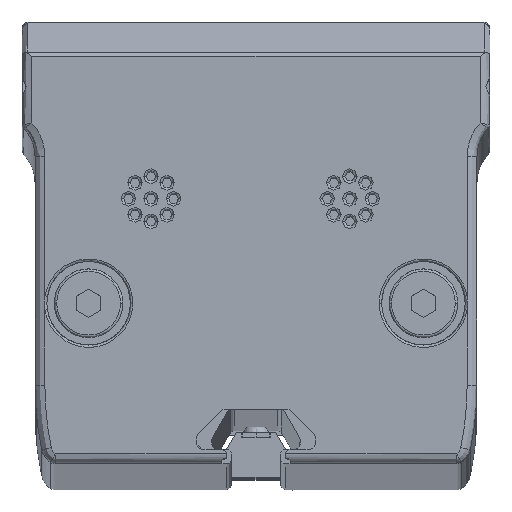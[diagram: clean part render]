
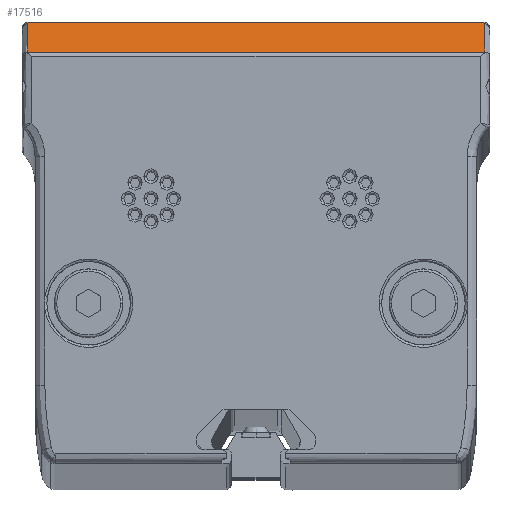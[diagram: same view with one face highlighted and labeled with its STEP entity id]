
A CAD part, top view. The second image highlights one B-rep face of the part: STEP entity #17516.
In plain terms, the highlighted planar face has unit normal (0, 0.858, 0.514).
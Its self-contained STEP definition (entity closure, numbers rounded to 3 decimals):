
#355 = VERTEX_POINT ( 'NONE', #18386 ) ;
#1018 = EDGE_CURVE ( 'NONE', #355, #14718, #29781, .T. ) ;
#1491 = DIRECTION ( 'NONE',  ( 0., 0.514, -0.857 ) ) ;
#2038 = CARTESIAN_POINT ( 'NONE',  ( -23.215, 22.429, 1504.914 ) ) ;
#2361 = CARTESIAN_POINT ( 'NONE',  ( 23.215, 22.429, 1504.914 ) ) ;
#3003 = EDGE_CURVE ( 'NONE', #14055, #355, #25816, .T. ) ;
#3198 = CARTESIAN_POINT ( 'NONE',  ( -23.315, 22.329, 1505.08 ) ) ;
#3528 = ORIENTED_EDGE ( 'NONE', *, *, #8092, .T. ) ;
#4273 = CARTESIAN_POINT ( 'NONE',  ( -23.315, 19.287, 1510.15 ) ) ;
#4395 = EDGE_CURVE ( 'NONE', #26725, #14055, #6176, .T. ) ;
#4778 = CARTESIAN_POINT ( 'NONE',  ( 23.215, 22.429, 1504.914 ) ) ;
#6176 =( BOUNDED_CURVE ( )  B_SPLINE_CURVE ( 3, ( #13296, #22176, #15425, #26571 ),
 .UNSPECIFIED., .F., .T. ) 
 B_SPLINE_CURVE_WITH_KNOTS ( ( 4, 4 ),
 ( 4.712, 6.283 ),
 .UNSPECIFIED. ) 
 CURVE ( )  GEOMETRIC_REPRESENTATION_ITEM ( )  RATIONAL_B_SPLINE_CURVE ( ( 1., 0.805, 0.805, 1. ) ) 
 REPRESENTATION_ITEM ( '' )  );
#6649 = VECTOR ( 'NONE', #20564, 1000. ) ;
#6744 = DIRECTION ( 'NONE',  ( 0., 0.514, -0.857 ) ) ;
#7302 = EDGE_CURVE ( 'NONE', #10502, #15842, #24906, .T. ) ;
#8092 = EDGE_CURVE ( 'NONE', #15842, #9873, #11347, .T. ) ;
#8923 = CARTESIAN_POINT ( 'NONE',  ( 23.315, 22.329, 1505.08 ) ) ;
#9078 = DIRECTION ( 'NONE',  ( 1., 0., 0. ) ) ;
#9129 = CARTESIAN_POINT ( 'NONE',  ( 23.315, 19.433, 1509.907 ) ) ;
#9873 = VERTEX_POINT ( 'NONE', #9129 ) ;
#10502 = VERTEX_POINT ( 'NONE', #12952 ) ;
#11347 = LINE ( 'NONE', #20517, #25963 ) ;
#12632 = CARTESIAN_POINT ( 'NONE',  ( 23.315, 19.287, 1510.15 ) ) ;
#12794 = ORIENTED_EDGE ( 'NONE', *, *, #4395, .T. ) ;
#12952 = CARTESIAN_POINT ( 'NONE',  ( -23.315, 22.329, 1505.08 ) ) ;
#13296 = CARTESIAN_POINT ( 'NONE',  ( 23.315, 22.329, 1505.08 ) ) ;
#13467 = DIRECTION ( 'NONE',  ( 0., -0.514, 0.857 ) ) ;
#13835 = ORIENTED_EDGE ( 'NONE', *, *, #26821, .T. ) ;
#13972 = AXIS2_PLACEMENT_3D ( 'NONE', #17759, #26969, #6744 ) ;
#14055 = VERTEX_POINT ( 'NONE', #29219 ) ;
#14718 = VERTEX_POINT ( 'NONE', #29448 ) ;
#15425 = CARTESIAN_POINT ( 'NONE',  ( 23.274, 22.429, 1504.914 ) ) ;
#15842 = VERTEX_POINT ( 'NONE', #23205 ) ;
#15845 = VECTOR ( 'NONE', #1491, 1000. ) ;
#15936 = CARTESIAN_POINT ( 'NONE',  ( 23.215, 22.429, 1504.914 ) ) ;
#17063 = CARTESIAN_POINT ( 'NONE',  ( -23.315, 22.387, 1504.983 ) ) ;
#17444 = EDGE_CURVE ( 'NONE', #9873, #26725, #22116, .T. ) ;
#17454 = PLANE ( 'NONE',  #13972 ) ;
#17516 = ADVANCED_FACE ( 'NONE', ( #19708 ), #17454, .F. ) ;
#17759 = CARTESIAN_POINT ( 'NONE',  ( 23.82, 19.287, 1510.15 ) ) ;
#18386 = CARTESIAN_POINT ( 'NONE',  ( 23.215, 22.429, 1504.914 ) ) ;
#19165 = CARTESIAN_POINT ( 'NONE',  ( -23.215, 22.429, 1504.914 ) ) ;
#19557 = EDGE_LOOP ( 'NONE', ( #3528, #25190, #12794, #19844, #24091, #13835, #22509 ) ) ;
#19708 = FACE_OUTER_BOUND ( 'NONE', #19557, .T. ) ;
#19844 = ORIENTED_EDGE ( 'NONE', *, *, #3003, .T. ) ;
#20517 = CARTESIAN_POINT ( 'NONE',  ( 23.82, 19.433, 1509.907 ) ) ;
#20564 = DIRECTION ( 'NONE',  ( -1., 0., 0. ) ) ;
#21064 = VECTOR ( 'NONE', #13467, 1000. ) ;
#22116 = LINE ( 'NONE', #12632, #15845 ) ;
#22176 = CARTESIAN_POINT ( 'NONE',  ( 23.315, 22.387, 1504.983 ) ) ;
#22509 = ORIENTED_EDGE ( 'NONE', *, *, #7302, .T. ) ;
#22684 = CARTESIAN_POINT ( 'NONE',  ( 23.215, 22.429, 1504.914 ) ) ;
#23205 = CARTESIAN_POINT ( 'NONE',  ( -23.315, 19.433, 1509.907 ) ) ;
#23835 = CARTESIAN_POINT ( 'NONE',  ( -23.274, 22.429, 1504.914 ) ) ;
#24091 = ORIENTED_EDGE ( 'NONE', *, *, #1018, .T. ) ;
#24906 = LINE ( 'NONE', #4273, #21064 ) ;
#25190 = ORIENTED_EDGE ( 'NONE', *, *, #17444, .T. ) ;
#25816 =( BOUNDED_CURVE ( )  B_SPLINE_CURVE ( 3, ( #2361, #15936, #22684, #4778 ),
 .UNSPECIFIED., .F., .T. ) 
 B_SPLINE_CURVE_WITH_KNOTS ( ( 4, 4 ),
 ( 6.283, 6.283 ),
 .UNSPECIFIED. ) 
 CURVE ( )  GEOMETRIC_REPRESENTATION_ITEM ( )  RATIONAL_B_SPLINE_CURVE ( ( 1., 1., 1., 1. ) ) 
 REPRESENTATION_ITEM ( '' )  );
#25963 = VECTOR ( 'NONE', #9078, 1000. ) ;
#26571 = CARTESIAN_POINT ( 'NONE',  ( 23.215, 22.429, 1504.914 ) ) ;
#26725 = VERTEX_POINT ( 'NONE', #8923 ) ;
#26821 = EDGE_CURVE ( 'NONE', #14718, #10502, #28366, .T. ) ;
#26969 = DIRECTION ( 'NONE',  ( 0., -0.857, -0.514 ) ) ;
#28366 =( BOUNDED_CURVE ( )  B_SPLINE_CURVE ( 3, ( #19165, #23835, #17063, #3198 ),
 .UNSPECIFIED., .F., .F. ) 
 B_SPLINE_CURVE_WITH_KNOTS ( ( 4, 4 ),
 ( 0., 1.571 ),
 .UNSPECIFIED. ) 
 CURVE ( )  GEOMETRIC_REPRESENTATION_ITEM ( )  RATIONAL_B_SPLINE_CURVE ( ( 1., 0.805, 0.805, 1. ) ) 
 REPRESENTATION_ITEM ( '' )  );
#29219 = CARTESIAN_POINT ( 'NONE',  ( 23.215, 22.429, 1504.914 ) ) ;
#29448 = CARTESIAN_POINT ( 'NONE',  ( -23.215, 22.429, 1504.914 ) ) ;
#29781 = LINE ( 'NONE', #2038, #6649 ) ;
